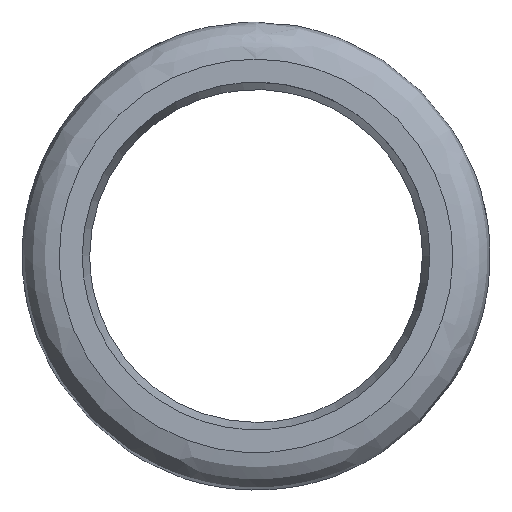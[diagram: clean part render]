
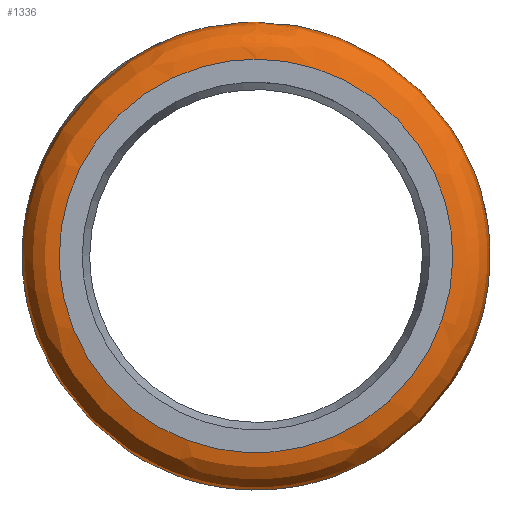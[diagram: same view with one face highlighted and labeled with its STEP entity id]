
A CAD part, left-side view. The second image highlights one B-rep face of the part: STEP entity #1336.
In plain terms, the highlighted free-form (B-spline) face has degree [2, 2] with [5, 9] control points.
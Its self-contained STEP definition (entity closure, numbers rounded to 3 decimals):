
#1290 = EDGE_CURVE('',#1291,#1293,#1295,.T.);
#1291 = VERTEX_POINT('',#1292);
#1292 = CARTESIAN_POINT('',(0.,15.85,0.));
#1293 = VERTEX_POINT('',#1294);
#1294 = CARTESIAN_POINT('',(0.,0.,15.85));
#1295 = ( BOUNDED_CURVE() B_SPLINE_CURVE(2,(#1296,#1297,#1298),
.UNSPECIFIED.,.F.,.F.) B_SPLINE_CURVE_WITH_KNOTS((3,3),(0.,
1.571),.PIECEWISE_BEZIER_KNOTS.) CURVE() 
GEOMETRIC_REPRESENTATION_ITEM() RATIONAL_B_SPLINE_CURVE((1.,
0.707,1.)) REPRESENTATION_ITEM('') );
#1296 = CARTESIAN_POINT('',(0.,15.85,0.));
#1297 = CARTESIAN_POINT('',(0.,15.85,15.85));
#1298 = CARTESIAN_POINT('',(0.,0.,15.85));
#1300 = EDGE_CURVE('',#1293,#1291,#1301,.T.);
#1301 = ( BOUNDED_CURVE() B_SPLINE_CURVE(2,(#1302,#1303,#1304,#1305,
#1306,#1307,#1308),.UNSPECIFIED.,.F.,.F.) B_SPLINE_CURVE_WITH_KNOTS((3,2
    ,2,3),(1.571,3.142,4.712,6.283),
.UNSPECIFIED.) CURVE() GEOMETRIC_REPRESENTATION_ITEM() 
RATIONAL_B_SPLINE_CURVE((1.,0.707,1.,0.707,1.,
0.707,1.)) REPRESENTATION_ITEM('') );
#1302 = CARTESIAN_POINT('',(0.,0.,15.85));
#1303 = CARTESIAN_POINT('',(0.,-15.85,15.85));
#1304 = CARTESIAN_POINT('',(0.,-15.85,0.));
#1305 = CARTESIAN_POINT('',(0.,-15.85,-15.85));
#1306 = CARTESIAN_POINT('',(0.,0.,-15.85));
#1307 = CARTESIAN_POINT('',(0.,15.85,-15.85));
#1308 = CARTESIAN_POINT('',(0.,15.85,0.));
#1336 = ADVANCED_FACE('',(#1337),#1376,.T.);
#1337 = FACE_BOUND('',#1338,.T.);
#1338 = EDGE_LOOP('',(#1339,#1349,#1359,#1365,#1373,#1374,#1375));
#1339 = ORIENTED_EDGE('',*,*,#1340,.F.);
#1340 = EDGE_CURVE('',#1341,#1343,#1345,.T.);
#1341 = VERTEX_POINT('',#1342);
#1342 = CARTESIAN_POINT('',(5.121,17.971,0.));
#1343 = VERTEX_POINT('',#1344);
#1344 = CARTESIAN_POINT('',(5.121,0.,17.971));
#1345 = ( BOUNDED_CURVE() B_SPLINE_CURVE(2,(#1346,#1347,#1348),
.UNSPECIFIED.,.F.,.F.) B_SPLINE_CURVE_WITH_KNOTS((3,3),(0.,
1.571),.PIECEWISE_BEZIER_KNOTS.) CURVE() 
GEOMETRIC_REPRESENTATION_ITEM() RATIONAL_B_SPLINE_CURVE((1.,
0.707,1.)) REPRESENTATION_ITEM('') );
#1346 = CARTESIAN_POINT('',(5.121,17.971,0.));
#1347 = CARTESIAN_POINT('',(5.121,17.971,17.971)
  );
#1348 = CARTESIAN_POINT('',(5.121,0.,
    17.971));
#1349 = ORIENTED_EDGE('',*,*,#1350,.F.);
#1350 = EDGE_CURVE('',#1351,#1341,#1353,.T.);
#1351 = VERTEX_POINT('',#1352);
#1352 = CARTESIAN_POINT('',(5.121,-17.971,0.));
#1353 = ( BOUNDED_CURVE() B_SPLINE_CURVE(2,(#1354,#1355,#1356,#1357,
#1358),.UNSPECIFIED.,.F.,.F.) B_SPLINE_CURVE_WITH_KNOTS((3,2,3),(
    3.142,4.712,6.283),
.PIECEWISE_BEZIER_KNOTS.) CURVE() GEOMETRIC_REPRESENTATION_ITEM() 
RATIONAL_B_SPLINE_CURVE((1.,0.707,1.,0.707,1.)) 
REPRESENTATION_ITEM('') );
#1354 = CARTESIAN_POINT('',(5.121,-17.971,
    0.));
#1355 = CARTESIAN_POINT('',(5.121,-17.971,
    -17.971));
#1356 = CARTESIAN_POINT('',(5.121,0.,
    -17.971));
#1357 = CARTESIAN_POINT('',(5.121,17.971,-17.971
    ));
#1358 = CARTESIAN_POINT('',(5.121,17.971,
    0.));
#1359 = ORIENTED_EDGE('',*,*,#1360,.F.);
#1360 = EDGE_CURVE('',#1343,#1351,#1361,.T.);
#1361 = ( BOUNDED_CURVE() B_SPLINE_CURVE(2,(#1362,#1363,#1364),
.UNSPECIFIED.,.F.,.F.) B_SPLINE_CURVE_WITH_KNOTS((3,3),(1.571,
3.142),.PIECEWISE_BEZIER_KNOTS.) CURVE() 
GEOMETRIC_REPRESENTATION_ITEM() RATIONAL_B_SPLINE_CURVE((1.,
0.707,1.)) REPRESENTATION_ITEM('') );
#1362 = CARTESIAN_POINT('',(5.121,0.,
    17.971));
#1363 = CARTESIAN_POINT('',(5.121,-17.971,17.971
    ));
#1364 = CARTESIAN_POINT('',(5.121,-17.971,
    0.));
#1365 = ORIENTED_EDGE('',*,*,#1366,.T.);
#1366 = EDGE_CURVE('',#1343,#1293,#1367,.T.);
#1367 = ( BOUNDED_CURVE() B_SPLINE_CURVE(2,(#1368,#1369,#1370,#1371,
#1372),.UNSPECIFIED.,.F.,.F.) B_SPLINE_CURVE_WITH_KNOTS((3,2,3),(
-0.785,0.393,1.571),.UNSPECIFIED.) CURVE() 
GEOMETRIC_REPRESENTATION_ITEM() RATIONAL_B_SPLINE_CURVE((1.,
0.831,1.,0.831,1.)) REPRESENTATION_ITEM('') );
#1368 = CARTESIAN_POINT('',(5.121,0.,17.971));
#1369 = CARTESIAN_POINT('',(3.704,0.,19.389));
#1370 = CARTESIAN_POINT('',(1.852,0.,18.622));
#1371 = CARTESIAN_POINT('',(0.,0.,17.855));
#1372 = CARTESIAN_POINT('',(0.,0.,15.85));
#1373 = ORIENTED_EDGE('',*,*,#1300,.T.);
#1374 = ORIENTED_EDGE('',*,*,#1290,.T.);
#1375 = ORIENTED_EDGE('',*,*,#1366,.F.);
#1376 = ( BOUNDED_SURFACE() B_SPLINE_SURFACE(2,2,(
    (#1377,#1378,#1379,#1380,#1381,#1382,#1383,#1384,#1385)
    ,(#1386,#1387,#1388,#1389,#1390,#1391,#1392,#1393,#1394)
    ,(#1395,#1396,#1397,#1398,#1399,#1400,#1401,#1402,#1403)
    ,(#1404,#1405,#1406,#1407,#1408,#1409,#1410,#1411,#1412)
    ,(#1413,#1414,#1415,#1416,#1417,#1418,#1419,#1420,#1421
)),.UNSPECIFIED.,.F.,.T.,.F.) B_SPLINE_SURFACE_WITH_KNOTS((3,2,3),(1,2,2
    ,2,2,2,1),(-1.571,-0.393,0.785),(
    -4.712,-3.142,-1.571,0.,1.571,
    3.142,4.712),.UNSPECIFIED.) 
GEOMETRIC_REPRESENTATION_ITEM() RATIONAL_B_SPLINE_SURFACE((
    (1.,0.707,1.,0.707,1.,0.707,1.
      ,0.707,1.)
    ,(0.831,0.588,0.831,0.588
      ,0.831,0.588,0.831,0.588
      ,0.831)
    ,(1.,0.707,1.,0.707,1.,0.707,1.
      ,0.707,1.)
    ,(0.831,0.588,0.831,0.588
      ,0.831,0.588,0.831,0.588
      ,0.831)
    ,(1.,0.707,1.,0.707,1.,0.707,1.
,0.707,1.))) REPRESENTATION_ITEM('') SURFACE() );
#1377 = CARTESIAN_POINT('',(5.121,0.,17.971));
#1378 = CARTESIAN_POINT('',(5.121,-17.971,17.971
    ));
#1379 = CARTESIAN_POINT('',(5.121,-17.971,0.));
#1380 = CARTESIAN_POINT('',(5.121,-17.971,
    -17.971));
#1381 = CARTESIAN_POINT('',(5.121,0.,-17.971));
#1382 = CARTESIAN_POINT('',(5.121,17.971,-17.971
    ));
#1383 = CARTESIAN_POINT('',(5.121,17.971,0.));
#1384 = CARTESIAN_POINT('',(5.121,17.971,17.971)
  );
#1385 = CARTESIAN_POINT('',(5.121,0.,17.971));
#1386 = CARTESIAN_POINT('',(3.704,0.,19.389));
#1387 = CARTESIAN_POINT('',(3.704,-19.389,
    19.389));
#1388 = CARTESIAN_POINT('',(3.704,-19.389,0.));
#1389 = CARTESIAN_POINT('',(3.704,-19.389,
    -19.389));
#1390 = CARTESIAN_POINT('',(3.704,0.,-19.389));
#1391 = CARTESIAN_POINT('',(3.704,19.389,
    -19.389));
#1392 = CARTESIAN_POINT('',(3.704,19.389,0.));
#1393 = CARTESIAN_POINT('',(3.704,19.389,19.389
    ));
#1394 = CARTESIAN_POINT('',(3.704,0.,19.389));
#1395 = CARTESIAN_POINT('',(1.852,0.,18.622));
#1396 = CARTESIAN_POINT('',(1.852,-18.622,
    18.622));
#1397 = CARTESIAN_POINT('',(1.852,-18.622,0.));
#1398 = CARTESIAN_POINT('',(1.852,-18.622,
    -18.622));
#1399 = CARTESIAN_POINT('',(1.852,0.,-18.622));
#1400 = CARTESIAN_POINT('',(1.852,18.622,
    -18.622));
#1401 = CARTESIAN_POINT('',(1.852,18.622,0.));
#1402 = CARTESIAN_POINT('',(1.852,18.622,
    18.622));
#1403 = CARTESIAN_POINT('',(1.852,0.,18.622));
#1404 = CARTESIAN_POINT('',(0.,0.,17.855));
#1405 = CARTESIAN_POINT('',(0.,-17.855,
    17.855));
#1406 = CARTESIAN_POINT('',(0.,-17.855,0.));
#1407 = CARTESIAN_POINT('',(0.,-17.855,
    -17.855));
#1408 = CARTESIAN_POINT('',(0.,0.,-17.855));
#1409 = CARTESIAN_POINT('',(0.,17.855,
    -17.855));
#1410 = CARTESIAN_POINT('',(0.,17.855,0.));
#1411 = CARTESIAN_POINT('',(0.,17.855,
    17.855));
#1412 = CARTESIAN_POINT('',(0.,0.,17.855));
#1413 = CARTESIAN_POINT('',(0.,0.,15.85));
#1414 = CARTESIAN_POINT('',(0.,-15.85,15.85));
#1415 = CARTESIAN_POINT('',(0.,-15.85,0.));
#1416 = CARTESIAN_POINT('',(0.,-15.85,-15.85));
#1417 = CARTESIAN_POINT('',(0.,0.,-15.85));
#1418 = CARTESIAN_POINT('',(0.,15.85,-15.85));
#1419 = CARTESIAN_POINT('',(0.,15.85,0.));
#1420 = CARTESIAN_POINT('',(0.,15.85,15.85));
#1421 = CARTESIAN_POINT('',(0.,0.,15.85));
